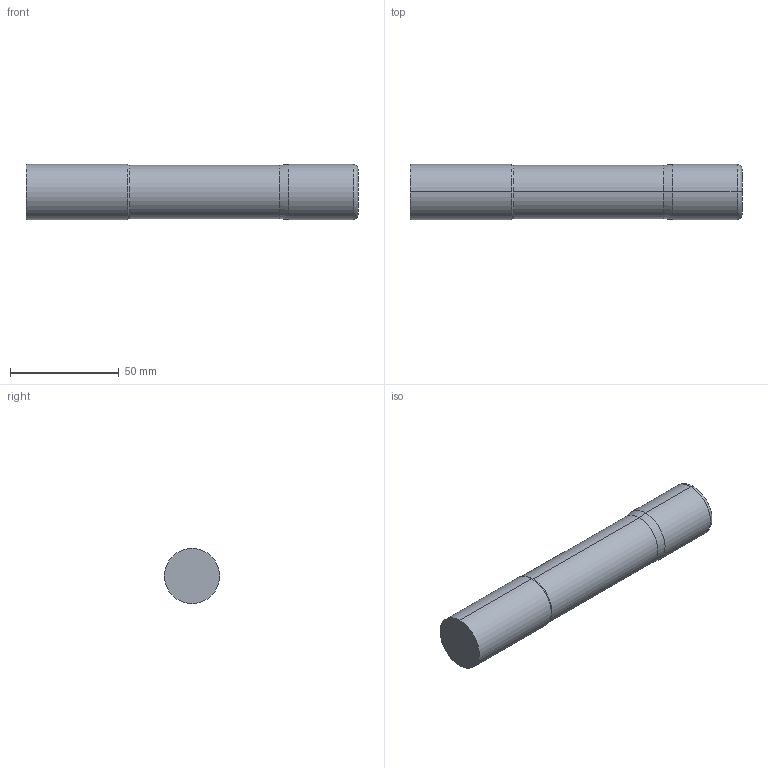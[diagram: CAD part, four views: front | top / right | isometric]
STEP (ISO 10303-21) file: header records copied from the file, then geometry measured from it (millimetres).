
FILE_DESCRIPTION (( 'STEP AP214' ), '1' );
FILE_NAME ('SSIRNX71000-090.STEP', '2025-05-30T15:13:34', ( '' ), ( '' ), 'SwSTEP 2.0', 'SolidWorks 2023', '' );
FILE_SCHEMA (( 'AUTOMOTIVE_DESIGN' ));
Length unit declared in the file: inch
Products named in the file (3): SSI7 Cut Only_SSIRNX71000-090; SSIRNX71000-090; SSI7 Shank Only_SSIRNX71000-090
Assembly tree (2 placements, depth 2):
  SSIRNX71000-090
    SSI7 Cut Only_SSIRNX71000-090
    SSI7 Shank Only_SSIRNX71000-090
Bounding box: 152.4 x 25.4 x 25.4 mm (x, y, z)
Volume: 74299.4 mm3; surface area: 13892.4 mm2
Topology: 2 solids, 2 shells, 16 faces, 28 edges, 16 vertices
Faces by surface type: cylinder 6, plane 4, cone 4, torus 2
Entity records: 484 total; most frequent: DIRECTION 88, CARTESIAN_POINT 65, ORIENTED_EDGE 56, AXIS2_PLACEMENT_3D 39, EDGE_CURVE 28, CIRCLE 18, ADVANCED_FACE 16, EDGE_LOOP 16
